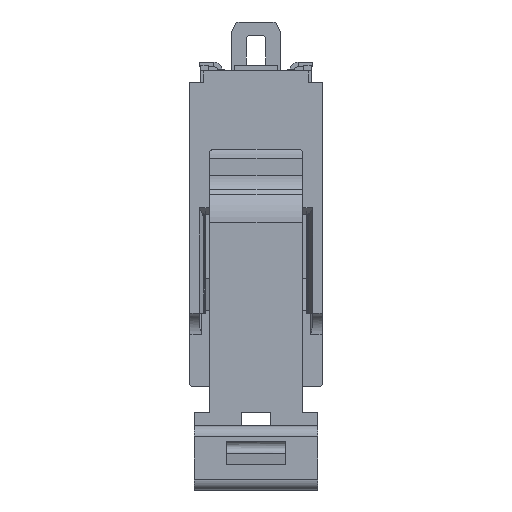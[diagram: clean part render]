
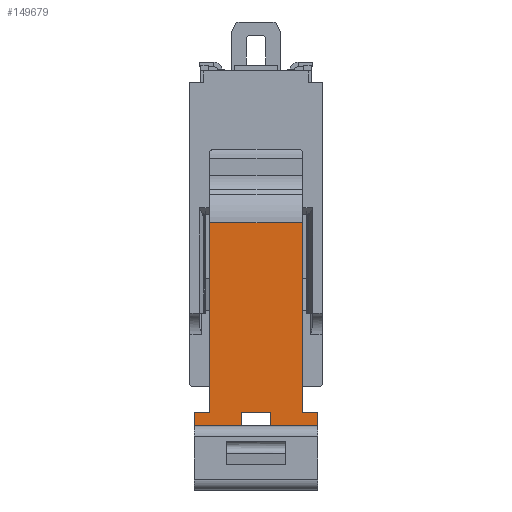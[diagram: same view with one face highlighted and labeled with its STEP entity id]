
A CAD part, front view. The second image highlights one B-rep face of the part: STEP entity #149679.
In plain terms, the highlighted planar face has unit normal (0, -1, 0).
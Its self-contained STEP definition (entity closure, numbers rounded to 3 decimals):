
#44400=DIRECTION('',(1.,0.,0.));
#44401=VECTOR('',#44400,0.725);
#44402=CARTESIAN_POINT('',(-2.85,-70.35,-16.07));
#44403=LINE('',#44402,#44401);
#44413=DIRECTION('',(1.,0.,0.));
#44414=VECTOR('',#44413,2.165);
#44415=CARTESIAN_POINT('',(0.685,-70.35,-16.67));
#44416=LINE('',#44415,#44414);
#44417=DIRECTION('',(0.,0.,-1.));
#44418=VECTOR('',#44417,0.6);
#44419=CARTESIAN_POINT('',(0.685,-70.35,-16.07));
#44420=LINE('',#44419,#44418);
#44421=DIRECTION('',(0.,0.,1.));
#44422=VECTOR('',#44421,0.6);
#44423=CARTESIAN_POINT('',(-0.685,-70.35,-16.67));
#44424=LINE('',#44423,#44422);
#44425=DIRECTION('',(0.,0.,-1.));
#44426=VECTOR('',#44425,0.6);
#44427=CARTESIAN_POINT('',(-2.85,-70.35,-16.07));
#44428=LINE('',#44427,#44426);
#44429=DIRECTION('',(0.,0.,-1.));
#44430=VECTOR('',#44429,8.77);
#44431=CARTESIAN_POINT('',(-2.125,-70.35,-7.3));
#44432=LINE('',#44431,#44430);
#44433=DIRECTION('',(-1.,0.,0.));
#44434=VECTOR('',#44433,0.725);
#44435=CARTESIAN_POINT('',(2.85,-70.35,-16.07));
#44436=LINE('',#44435,#44434);
#44437=DIRECTION('',(0.,0.,1.));
#44438=VECTOR('',#44437,0.6);
#44439=CARTESIAN_POINT('',(2.85,-70.35,-16.67));
#44440=LINE('',#44439,#44438);
#44441=DIRECTION('',(-1.,0.,0.));
#44442=VECTOR('',#44441,2.165);
#44443=CARTESIAN_POINT('',(-0.685,-70.35,-16.67));
#44444=LINE('',#44443,#44442);
#44630=DIRECTION('',(0.,0.,-1.));
#44631=VECTOR('',#44630,8.77);
#44632=CARTESIAN_POINT('',(2.125,-70.35,-7.3));
#44633=LINE('',#44632,#44631);
#45253=DIRECTION('',(-1.,0.,0.));
#45254=VECTOR('',#45253,1.37);
#45255=CARTESIAN_POINT('',(0.685,-70.35,-16.07));
#45256=LINE('',#45255,#45254);
#45668=DIRECTION('',(1.,0.,0.));
#45669=VECTOR('',#45668,4.25);
#45670=CARTESIAN_POINT('',(-2.125,-70.35,-7.3));
#45671=LINE('',#45670,#45669);
#94458=CARTESIAN_POINT('',(2.85,-70.35,-16.07));
#94459=CARTESIAN_POINT('',(2.125,-70.35,-16.07));
#94460=VERTEX_POINT('',#94458);
#94461=VERTEX_POINT('',#94459);
#94480=CARTESIAN_POINT('',(-2.85,-70.35,-16.07));
#94481=CARTESIAN_POINT('',(-2.125,-70.35,-16.07));
#94482=VERTEX_POINT('',#94480);
#94483=VERTEX_POINT('',#94481);
#94544=CARTESIAN_POINT('',(2.85,-70.35,-16.67));
#94545=VERTEX_POINT('',#94544);
#94554=CARTESIAN_POINT('',(-2.85,-70.35,-16.67));
#94555=VERTEX_POINT('',#94554);
#94584=CARTESIAN_POINT('',(0.685,-70.35,-16.07));
#94585=CARTESIAN_POINT('',(0.685,-70.35,-16.67));
#94586=VERTEX_POINT('',#94584);
#94587=VERTEX_POINT('',#94585);
#94628=CARTESIAN_POINT('',(-0.685,-70.35,-16.67));
#94629=VERTEX_POINT('',#94628);
#94638=CARTESIAN_POINT('',(-0.685,-70.35,-16.07));
#94639=VERTEX_POINT('',#94638);
#94660=CARTESIAN_POINT('',(-2.125,-70.35,-7.3));
#94662=VERTEX_POINT('',#94660);
#94704=CARTESIAN_POINT('',(2.125,-70.35,-7.3));
#94705=VERTEX_POINT('',#94704);
#149650=CARTESIAN_POINT('',(-2.475,-70.35,-0.53));
#149651=DIRECTION('',(0.,-1.,0.));
#149652=DIRECTION('',(0.,0.,1.));
#149653=AXIS2_PLACEMENT_3D('',#149650,#149651,#149652);
#149654=PLANE('',#149653);
#149656=ORIENTED_EDGE('',*,*,#149655,.F.);
#149658=ORIENTED_EDGE('',*,*,#149657,.F.);
#149660=ORIENTED_EDGE('',*,*,#149659,.T.);
#149662=ORIENTED_EDGE('',*,*,#149661,.F.);
#149664=ORIENTED_EDGE('',*,*,#149663,.T.);
#149666=ORIENTED_EDGE('',*,*,#149665,.F.);
#149667=ORIENTED_EDGE('',*,*,#149631,.T.);
#149668=ORIENTED_EDGE('',*,*,#149544,.F.);
#149670=ORIENTED_EDGE('',*,*,#149669,.T.);
#149672=ORIENTED_EDGE('',*,*,#149671,.T.);
#149674=ORIENTED_EDGE('',*,*,#149673,.F.);
#149676=ORIENTED_EDGE('',*,*,#149675,.F.);
#149677=EDGE_LOOP('',(#149656,#149658,#149660,#149662,#149664,#149666,#149667,
#149668,#149670,#149672,#149674,#149676));
#149678=FACE_OUTER_BOUND('',#149677,.F.);
#149679=ADVANCED_FACE('',(#149678),#149654,.T.);
#149544=EDGE_CURVE('',#94662,#94483,#44432,.T.);
#149631=EDGE_CURVE('',#94482,#94483,#44403,.T.);
#149655=EDGE_CURVE('',#94587,#94545,#44416,.T.);
#149657=EDGE_CURVE('',#94586,#94587,#44420,.T.);
#149659=EDGE_CURVE('',#94586,#94639,#45256,.T.);
#149661=EDGE_CURVE('',#94629,#94639,#44424,.T.);
#149663=EDGE_CURVE('',#94629,#94555,#44444,.T.);
#149665=EDGE_CURVE('',#94482,#94555,#44428,.T.);
#149669=EDGE_CURVE('',#94662,#94705,#45671,.T.);
#149671=EDGE_CURVE('',#94705,#94461,#44633,.T.);
#149673=EDGE_CURVE('',#94460,#94461,#44436,.T.);
#149675=EDGE_CURVE('',#94545,#94460,#44440,.T.);
